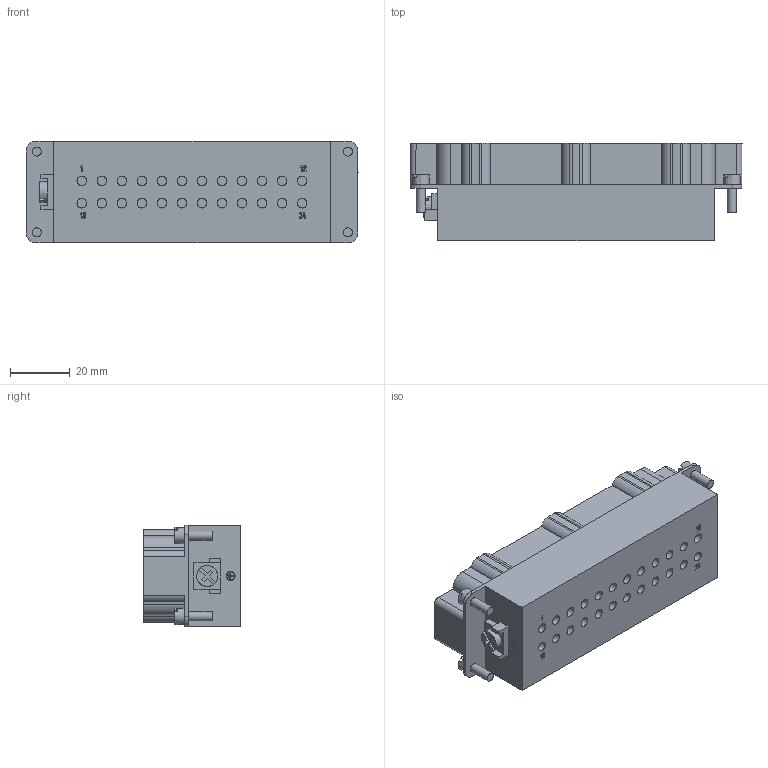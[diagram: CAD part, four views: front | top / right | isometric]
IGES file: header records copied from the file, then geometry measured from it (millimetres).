
Start section: VISI Layer Mapping Iges    VISI  0      LAYER0  1      WARNINGS
Global section: file name: G:\Produktkommunikation\Support\CD-Online-Katalog\3D Daten Produkte\15052012\E2702_24B.igs; native system: VISI 19.0; preprocessor: 2.0; author: nus; organization: Unknown; date: 20120515.150113; units: millimetre
Bounding box: 111.01 x 32.42 x 34.02 mm (x, y, z)
Surface area: 26483.3 mm2 (no closed solid volume)
Topology: 0 solids, 0 shells, 493 faces, 4298 edges, 4185 vertices
Faces by surface type: bspline 493
